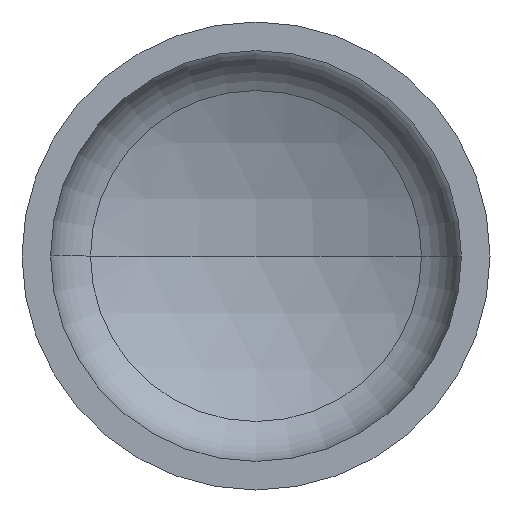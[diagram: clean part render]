
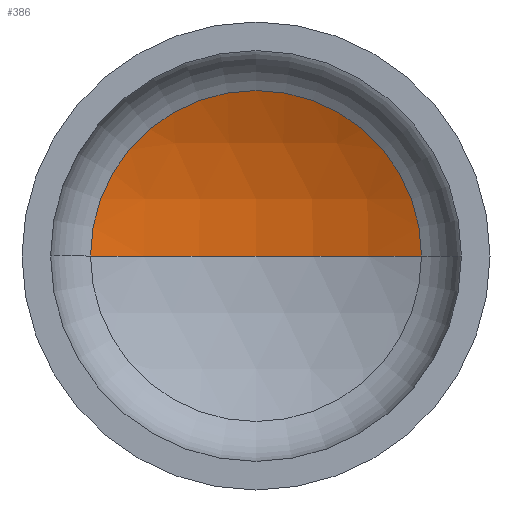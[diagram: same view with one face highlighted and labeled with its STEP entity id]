
A CAD part, front view. The second image highlights one B-rep face of the part: STEP entity #386.
In plain terms, the highlighted spherical face has radius 1440 mm.
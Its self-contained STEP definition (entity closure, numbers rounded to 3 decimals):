
#1 = AXIS2_PLACEMENT_3D ( 'NONE', #131, #133, #168 ) ;
#11 = AXIS2_PLACEMENT_3D ( 'NONE', #203, #250, #81 ) ;
#26 = CARTESIAN_POINT ( 'NONE',  ( 0., 321.671, 0. ) ) ;
#30 = ORIENTED_EDGE ( 'NONE', *, *, #92, .T. ) ;
#38 = AXIS2_PLACEMENT_3D ( 'NONE', #141, #328, #149 ) ;
#39 = AXIS2_PLACEMENT_3D ( 'NONE', #26, #172, #359 ) ;
#59 = VERTEX_POINT ( 'NONE', #223 ) ;
#81 = DIRECTION ( 'NONE',  ( -1., 0., 0. ) ) ;
#91 = EDGE_CURVE ( 'NONE', #59, #287, #96, .T. ) ;
#92 = EDGE_CURVE ( 'NONE', #120, #59, #171, .T. ) ;
#96 = CIRCLE ( 'NONE', #39, 636.567 ) ;
#103 = SPHERICAL_SURFACE ( 'NONE', #11, 1440. ) ;
#120 = VERTEX_POINT ( 'NONE', #299 ) ;
#131 = CARTESIAN_POINT ( 'NONE',  ( 0., -969.988, 0. ) ) ;
#133 = DIRECTION ( 'NONE',  ( 0., 0., 1. ) ) ;
#141 = CARTESIAN_POINT ( 'NONE',  ( 0., -969.988, 0. ) ) ;
#149 = DIRECTION ( 'NONE',  ( -1., 0., 0. ) ) ;
#153 = ORIENTED_EDGE ( 'NONE', *, *, #331, .F. ) ;
#168 = DIRECTION ( 'NONE',  ( 1., 0., 0. ) ) ;
#171 = CIRCLE ( 'NONE', #38, 1440. ) ;
#172 = DIRECTION ( 'NONE',  ( 0., -1., 0. ) ) ;
#203 = CARTESIAN_POINT ( 'NONE',  ( 0., -969.988, 0. ) ) ;
#214 = EDGE_LOOP ( 'NONE', ( #153, #30, #346 ) ) ;
#223 = CARTESIAN_POINT ( 'NONE',  ( 636.567, 321.671, 0. ) ) ;
#240 = FACE_OUTER_BOUND ( 'NONE', #214, .T. ) ;
#250 = DIRECTION ( 'NONE',  ( 0., 0., -1. ) ) ;
#287 = VERTEX_POINT ( 'NONE', #402 ) ;
#299 = CARTESIAN_POINT ( 'NONE',  ( 0., 470.012, 0. ) ) ;
#328 = DIRECTION ( 'NONE',  ( 0., 0., -1. ) ) ;
#331 = EDGE_CURVE ( 'NONE', #120, #287, #342, .T. ) ;
#342 = CIRCLE ( 'NONE', #1, 1440. ) ;
#346 = ORIENTED_EDGE ( 'NONE', *, *, #91, .T. ) ;
#359 = DIRECTION ( 'NONE',  ( 1., 0., 0. ) ) ;
#386 = ADVANCED_FACE ( 'NONE', ( #240 ), #103, .F. ) ;
#402 = CARTESIAN_POINT ( 'NONE',  ( -636.567, 321.671, 0. ) ) ;
